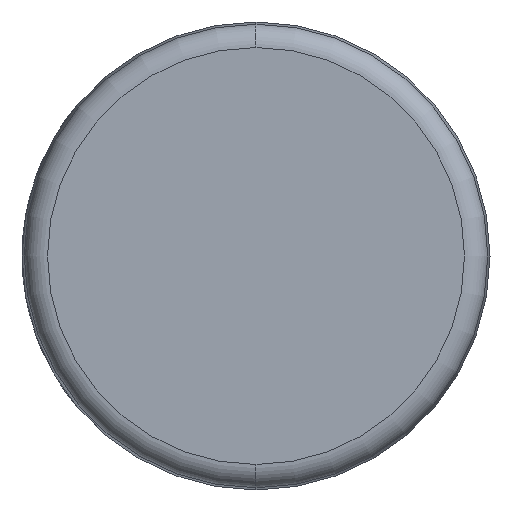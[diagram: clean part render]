
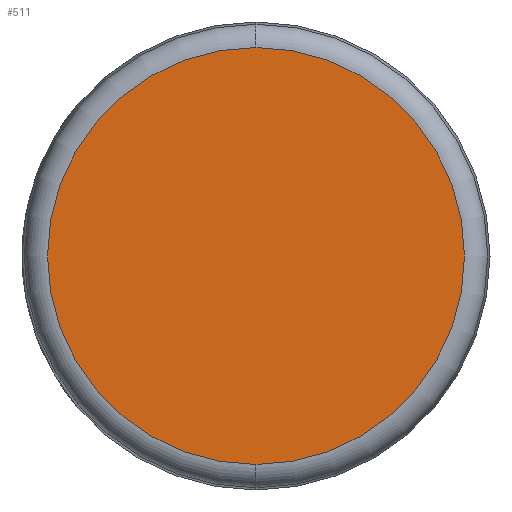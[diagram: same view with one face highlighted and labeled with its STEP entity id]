
A CAD part, left-side view. The second image highlights one B-rep face of the part: STEP entity #511.
In plain terms, the highlighted planar face has unit normal (-1, 0, 0).
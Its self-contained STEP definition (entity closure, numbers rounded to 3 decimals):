
#18 = AXIS2_PLACEMENT_3D ( 'NONE', #219, #694, #338 ) ;
#23 = CARTESIAN_POINT ( 'NONE',  ( 0., 0., 0. ) ) ;
#50 = EDGE_LOOP ( 'NONE', ( #68, #379 ) ) ;
#68 = ORIENTED_EDGE ( 'NONE', *, *, #142, .T. ) ;
#116 = AXIS2_PLACEMENT_3D ( 'NONE', #189, #539, #187 ) ;
#142 = EDGE_CURVE ( 'NONE', #523, #635, #449, .T. ) ;
#187 = DIRECTION ( 'NONE',  ( 0., 0., -1. ) ) ;
#189 = CARTESIAN_POINT ( 'NONE',  ( 0., 0., 0. ) ) ;
#219 = CARTESIAN_POINT ( 'NONE',  ( 0., 0., 0. ) ) ;
#222 = PLANE ( 'NONE',  #18 ) ;
#280 = AXIS2_PLACEMENT_3D ( 'NONE', #23, #729, #493 ) ;
#300 = FACE_OUTER_BOUND ( 'NONE', #50, .T. ) ;
#338 = DIRECTION ( 'NONE',  ( 0., 0., -1. ) ) ;
#373 = CIRCLE ( 'NONE', #280, 22.272 ) ;
#379 = ORIENTED_EDGE ( 'NONE', *, *, #440, .T. ) ;
#440 = EDGE_CURVE ( 'NONE', #635, #523, #373, .T. ) ;
#449 = CIRCLE ( 'NONE', #116, 22.272 ) ;
#465 = CARTESIAN_POINT ( 'NONE',  ( 0., 0., -22.272 ) ) ;
#493 = DIRECTION ( 'NONE',  ( 0., 0., -1. ) ) ;
#511 = ADVANCED_FACE ( 'NONE', ( #300 ), #222, .F. ) ;
#523 = VERTEX_POINT ( 'NONE', #465 ) ;
#539 = DIRECTION ( 'NONE',  ( -1., 0., 0. ) ) ;
#629 = CARTESIAN_POINT ( 'NONE',  ( 0., 0., 22.272 ) ) ;
#635 = VERTEX_POINT ( 'NONE', #629 ) ;
#694 = DIRECTION ( 'NONE',  ( 1., 0., 0. ) ) ;
#729 = DIRECTION ( 'NONE',  ( -1., 0., 0. ) ) ;
